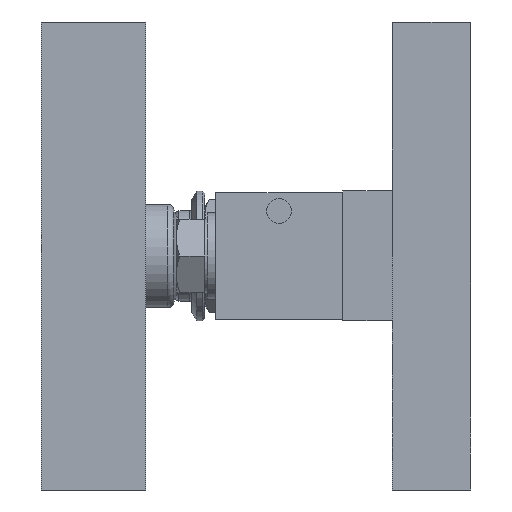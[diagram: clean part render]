
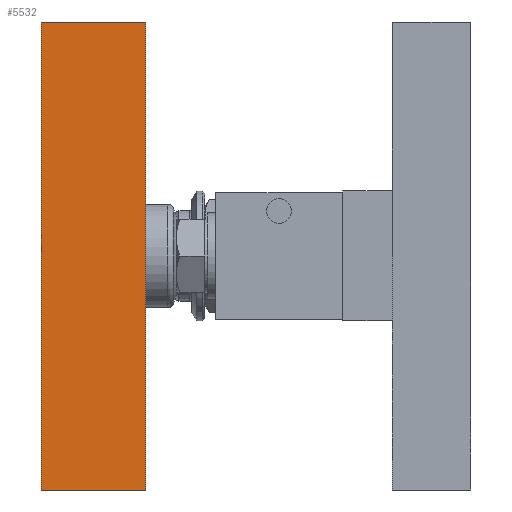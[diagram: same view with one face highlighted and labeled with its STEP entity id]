
A CAD part, left-side view. The second image highlights one B-rep face of the part: STEP entity #5532.
In plain terms, the highlighted planar face has unit normal (-1, 0, 0) as drawn and (0, 0, 1) by its records, which use the part's own axes.
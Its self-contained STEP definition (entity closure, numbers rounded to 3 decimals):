
#674 = EDGE_CURVE ( 'NONE', #2563, #5771, #3444, .T. ) ;
#813 = DIRECTION ( 'NONE',  ( 0., -1., 0. ) ) ;
#1019 = VECTOR ( 'NONE', #5836, 1000. ) ;
#1040 = CARTESIAN_POINT ( 'NONE',  ( -57.15, 0., 57.15 ) ) ;
#1209 = ORIENTED_EDGE ( 'NONE', *, *, #674, .F. ) ;
#1342 = CARTESIAN_POINT ( 'NONE',  ( -57.15, 25.4, 57.15 ) ) ;
#1379 = CARTESIAN_POINT ( 'NONE',  ( -57.15, 25.4, 57.15 ) ) ;
#1413 = ORIENTED_EDGE ( 'NONE', *, *, #5132, .F. ) ;
#1536 = CARTESIAN_POINT ( 'NONE',  ( 57.15, 0., 57.15 ) ) ;
#1734 = CARTESIAN_POINT ( 'NONE',  ( -57.15, 0., 57.15 ) ) ;
#1812 = FACE_OUTER_BOUND ( 'NONE', #3841, .T. ) ;
#2146 = DIRECTION ( 'NONE',  ( 1., 0., 0. ) ) ;
#2563 = VERTEX_POINT ( 'NONE', #1342 ) ;
#2571 = EDGE_CURVE ( 'NONE', #2563, #5325, #7351, .T. ) ;
#2806 = VECTOR ( 'NONE', #813, 1000. ) ;
#3089 = DIRECTION ( 'NONE',  ( 0., 0., -1. ) ) ;
#3212 = LINE ( 'NONE', #7408, #4903 ) ;
#3319 = ORIENTED_EDGE ( 'NONE', *, *, #2571, .T. ) ;
#3444 = LINE ( 'NONE', #6874, #5928 ) ;
#3634 = DIRECTION ( 'NONE',  ( -1., 0., 0. ) ) ;
#3685 = ORIENTED_EDGE ( 'NONE', *, *, #4980, .T. ) ;
#3841 = EDGE_LOOP ( 'NONE', ( #3685, #1413, #1209, #3319 ) ) ;
#4218 = PLANE ( 'NONE',  #6739 ) ;
#4345 = VERTEX_POINT ( 'NONE', #1536 ) ;
#4535 = DIRECTION ( 'NONE',  ( 0., -1., 0. ) ) ;
#4872 = CARTESIAN_POINT ( 'NONE',  ( -57.15, 25.4, 57.15 ) ) ;
#4903 = VECTOR ( 'NONE', #4535, 1000. ) ;
#4980 = EDGE_CURVE ( 'NONE', #5325, #4345, #6543, .T. ) ;
#5132 = EDGE_CURVE ( 'NONE', #5771, #4345, #3212, .T. ) ;
#5325 = VERTEX_POINT ( 'NONE', #1734 ) ;
#5532 = ADVANCED_FACE ( 'NONE', ( #1812 ), #4218, .F. ) ;
#5771 = VERTEX_POINT ( 'NONE', #7557 ) ;
#5836 = DIRECTION ( 'NONE',  ( 1., 0., 0. ) ) ;
#5928 = VECTOR ( 'NONE', #2146, 1000. ) ;
#6543 = LINE ( 'NONE', #1040, #1019 ) ;
#6739 = AXIS2_PLACEMENT_3D ( 'NONE', #4872, #3089, #3634 ) ;
#6874 = CARTESIAN_POINT ( 'NONE',  ( -57.15, 25.4, 57.15 ) ) ;
#7351 = LINE ( 'NONE', #1379, #2806 ) ;
#7408 = CARTESIAN_POINT ( 'NONE',  ( 57.15, 25.4, 57.15 ) ) ;
#7557 = CARTESIAN_POINT ( 'NONE',  ( 57.15, 25.4, 57.15 ) ) ;
